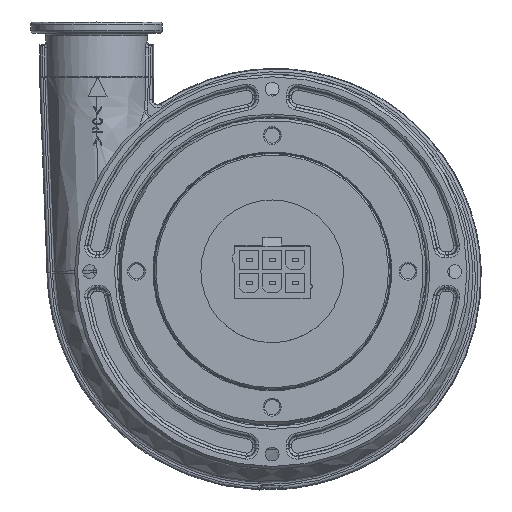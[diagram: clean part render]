
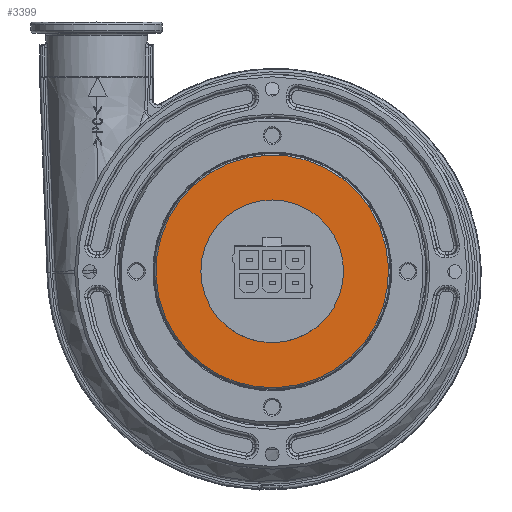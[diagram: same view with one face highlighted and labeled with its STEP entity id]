
A CAD part, top view. The second image highlights one B-rep face of the part: STEP entity #3399.
In plain terms, the highlighted planar face has unit normal (0, 0, 1).
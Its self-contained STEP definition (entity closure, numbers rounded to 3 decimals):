
#123=FACE_BOUND('',#5350,.T.);
#124=FACE_BOUND('',#5351,.T.);
#867=PLANE('',#16112);
#3399=ADVANCED_FACE('',(#123,#124),#867,.F.);
#5350=EDGE_LOOP('',(#9809));
#5351=EDGE_LOOP('',(#9810));
#5874=CIRCLE('',#16105,13.);
#5877=CIRCLE('',#16110,21.2);
#9809=ORIENTED_EDGE('',*,*,#13856,.T.);
#9810=ORIENTED_EDGE('',*,*,#13853,.F.);
#11725=VERTEX_POINT('',#34382);
#11728=VERTEX_POINT('',#34390);
#13853=EDGE_CURVE('',#11725,#11725,#5874,.T.);
#13856=EDGE_CURVE('',#11728,#11728,#5877,.T.);
#16105=AXIS2_PLACEMENT_3D('',#34381,#18713,#18714);
#16110=AXIS2_PLACEMENT_3D('',#34389,#18723,#18724);
#16112=AXIS2_PLACEMENT_3D('',#34392,#18727,#18728);
#18713=DIRECTION('',(0.,0.,1.));
#18714=DIRECTION('',(0.,-1.,0.));
#18723=DIRECTION('',(0.,0.,1.));
#18724=DIRECTION('',(0.3,0.954,0.));
#18727=DIRECTION('',(0.,0.,-1.));
#18728=DIRECTION('',(0.3,0.954,0.));
#34381=CARTESIAN_POINT('',(0.,0.,46.75));
#34382=CARTESIAN_POINT('',(0.,-13.,46.75));
#34389=CARTESIAN_POINT('',(0.,0.,
46.75));
#34390=CARTESIAN_POINT('',(6.367,20.221,46.75));
#34392=CARTESIAN_POINT('',(-6.457,-20.507,46.75));
